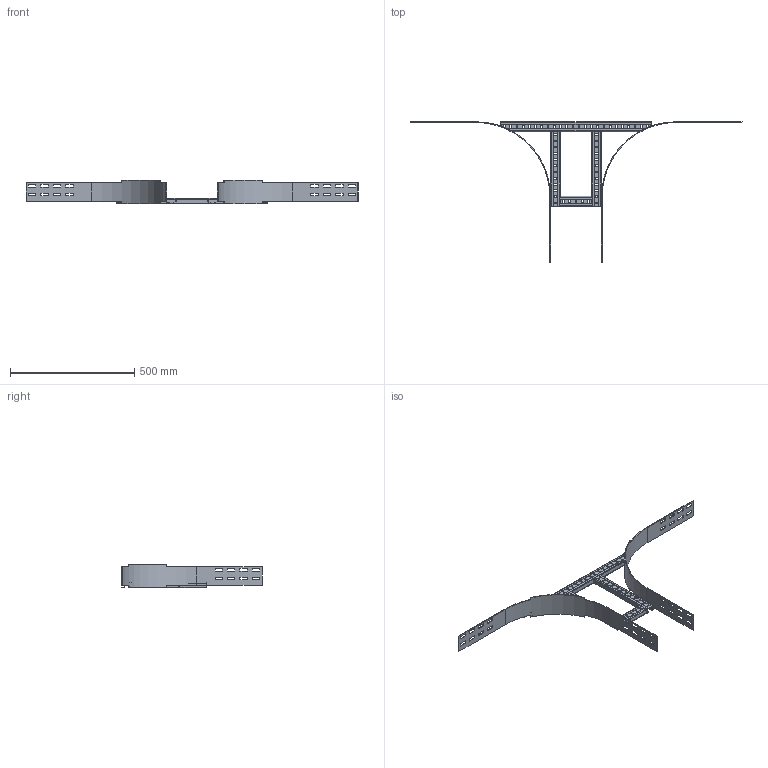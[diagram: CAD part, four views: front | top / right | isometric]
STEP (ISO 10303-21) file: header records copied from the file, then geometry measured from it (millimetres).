
FILE_DESCRIPTION(('Creo Elements/Direct Modeling STEP Export'),'2;1');
FILE_NAME('//pserver/office/EK/ME10-3D/3D-output/WPBP10-20-30.stp','2020-03-13T 7:21:35',(''),(''),'PTC Creo Elements/Direct Modeling STEP processor for AP214 (Solid Model)','PTC Creo Elements/Direct Modeling 19.0C 15-Aug-2015 (C) Parametric Technology GmbH','');
FILE_SCHEMA(('AUTOMOTIVE_DESIGN { 1 0 10303 214 1 1 1 1 }'));
Length unit declared in the file: millimetre
Products named in the file (5): WPAASP1_200-300; WPAASP2-300; WPAAIG_100-300; WPKS20; WPBP10-20-30-HDG
Assembly tree (6 placements, depth 2):
  WPBP10-20-30-HDG
    WPKS20
    WPAASP2-300  x2
    WPAAIG_100-300  x2
    WPAASP1_200-300
Bounding box: 1335 x 565 x 95 mm (x, y, z)
Volume: 635166 mm3; surface area: 581117.4 mm2
Topology: 6 solids, 6 shells, 548 faces, 1602 edges, 1068 vertices
Faces by surface type: plane 368, cylinder 180
Entity records: 12685 total; most frequent: CARTESIAN_POINT 2184, ORIENTED_EDGE 2184, DIRECTION 2108, EDGE_CURVE 1092, VECTOR 804, LINE 804, VERTEX_POINT 728, AXIS2_PLACEMENT_3D 652
